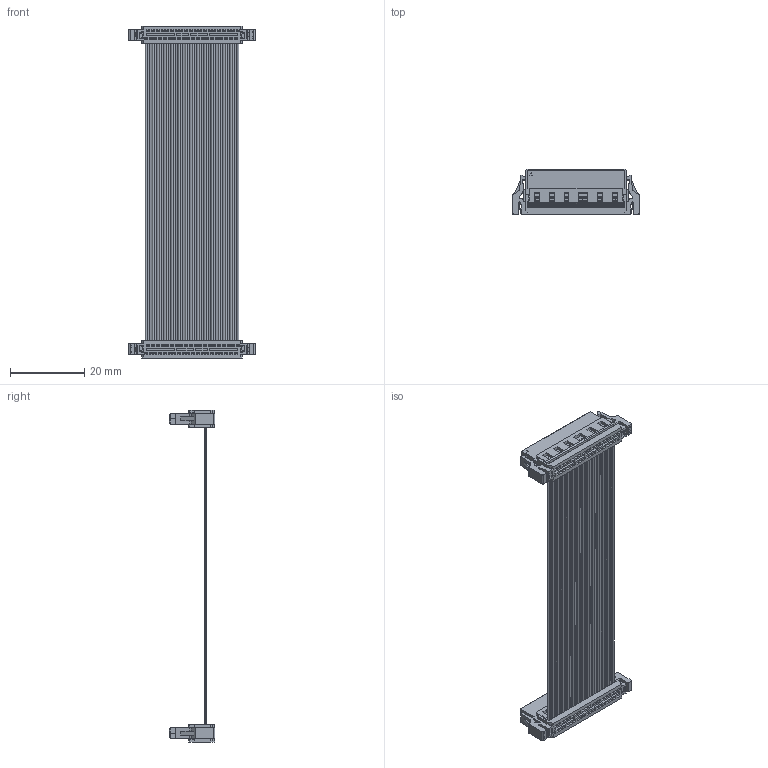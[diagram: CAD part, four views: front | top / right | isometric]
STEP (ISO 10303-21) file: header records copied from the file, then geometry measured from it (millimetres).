
FILE_DESCRIPTION (( 'STEP AP203' ), '1' );
FILE_NAME ('2321-A40FC00-2X8CM-H2-PVC-1100330 組合.STEP', '2021-03-30T05:50:31', ( '' ), ( '' ), 'SwSTEP 2.0', 'SolidWorks 2019', '' );
FILE_SCHEMA (( 'CONFIG_CONTROL_DESIGN' ));
Products named in the file (3): 2321-A40FC00-2X8CM-H2-PVC-1100330 未組合; 2321-A40FC00-2X8CM-H2-PVC-1100330 未組合-2; 2321-A40FC00-2X8CM-H2-PVC-1100330 組合
Assembly tree (2 placements, depth 2):
  2321-A40FC00-2X8CM-H2-PVC-1100330 組合
    2321-A40FC00-2X8CM-H2-PVC-1100330 未組合
    2321-A40FC00-2X8CM-H2-PVC-1100330 未組合-2
Bounding box: 33.98 x 12.2 x 89.4 mm (x, y, z)
Volume: 2681.6 mm3; surface area: 11397 mm2
Topology: 60 solids, 60 shells, 8640 faces, 24200 edges, 15948 vertices
Faces by surface type: plane 5990, cylinder 2650
Entity records: 277117 total; most frequent: CARTESIAN_POINT 52153, ORIENTED_EDGE 48400, DIRECTION 45182, EDGE_CURVE 24200, LINE 18268, VECTOR 18268, VERTEX_POINT 15948, AXIS2_PLACEMENT_3D 13457
